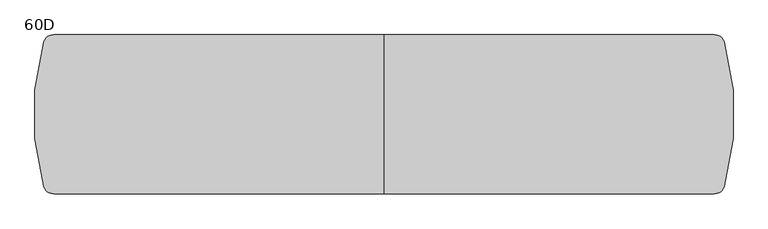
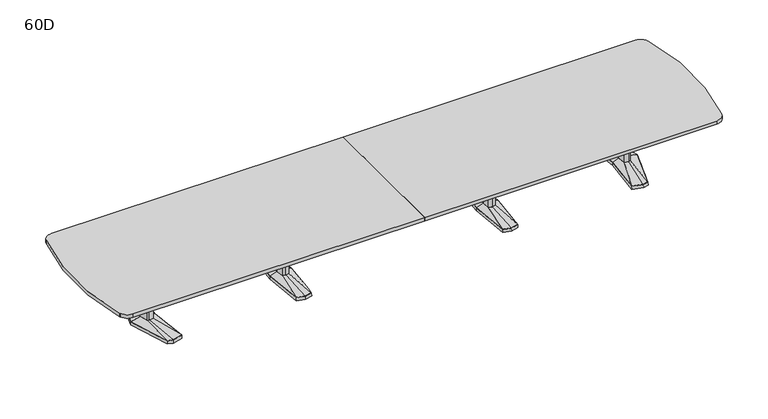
"""IFC4 building model written with IfcOpenShell, lengths in millimetres: furniture geometry, Coalesse_AM_Table_Conference_ETable2_SoftRadiused_22ft_AluminiumBase : 60D."""

from ifc_helpers import new_model, si_unit, point, frame, frame_2d, origin, place, context, project, spatial, polyline, circle_curve, trimmed, segment, composite_curve, outline, extrude, faceted_brep, source, transform, mapped, element, save
from ifc_brep_helpers import plane_surface, spline_surface, advanced_brep


def furniture_60d_d23749e7(model_context):
    return source(origin(), model_context, "Body", "SolidModel", [
        faceted_brep([(1036.3666209, -433.8053819, 38.1), (1117.6, -455.556576, 38.1), (1198.8333791, -433.8053819, 38.1), (1236.6564774, 0.0, 38.1), (1198.8333791, 433.8053819, 38.1), (1117.6, 455.556576, 38.1), (1036.3666209, 433.8053819, 38.1), (998.5435226, 0.0, 38.1), (1034.8817205, -435.0512063, 3.175), (996.95, 0.0, 3.175), (1034.8817205, 435.0512063, 3.175), (1117.6, 457.2, 3.175), (1200.3182795, 435.0512063, 3.175), (1238.25, 0.0, 3.175), (1200.3182795, -435.0512063, 3.175), (1117.6, -457.2, 3.175), (1117.6, 429.2617927, 3.175), (1039.6323194, 408.3850278, 3.175), (1042.8980179, 382.9646737, 3.175), (1117.6, 402.9670094, 3.175), (1192.3019821, 382.9646737, 3.175), (1195.5676806, 408.3850278, 3.175), (1117.6, -429.2617927, 3.175), (1195.5676806, -408.3850278, 3.175), (1192.3019821, -382.9646737, 3.175), (1117.6, -402.9670094, 3.175), (1042.8980179, -382.9646737, 3.175), (1039.6323194, -408.3850278, 3.175), (1045.7425738, 114.6326257, 3.175), (1035.0573924, 0.0, 3.175), (1045.7425738, -114.6326257, 3.175), (1117.6, -133.8761372, 3.175), (1189.4574262, -114.6326257, 3.175), (1200.1426076, 0.0, 3.175), (1189.4574262, 114.6326257, 3.175), (1117.6, 133.8761372, 3.175), (1117.6, 429.2617927, 0.0), (1195.5676806, 408.3850278, 0.0), (1192.3019821, 382.9646737, 0.0), (1117.6, 402.9670094, 0.0), (1042.8980179, 382.9646737, 0.0), (1039.6323194, 408.3850278, 0.0), (1117.6, -429.2617927, 0.0), (1039.6323194, -408.3850278, 0.0), (1042.8980179, -382.9646737, 0.0), (1117.6, -402.9670094, 0.0), (1192.3019821, -382.9646737, 0.0), (1195.5676806, -408.3850278, 0.0), (1045.7425738, 114.6326257, 0.0), (1117.6, 133.8761372, 0.0), (1189.4574262, 114.6326257, 0.0), (1200.1426076, 0.0, 0.0), (1189.4574262, -114.6326257, 0.0), (1117.6, -133.8761372, 0.0), (1045.7425738, -114.6326257, 0.0), (1035.0573924, 0.0, 0.0)], [[[0, 1, 2, 3, 4, 5, 6, 7]], [[8, 9, 10, 11, 12, 13, 14, 15], [16, 17, 18, 19, 20, 21], [22, 23, 24, 25, 26, 27], [28, 29, 30, 31, 32, 33, 34, 35]], [[1, 0, 8, 15]], [[2, 1, 15, 14]], [[3, 2, 14, 13]], [[4, 3, 13, 12]], [[5, 4, 12, 11]], [[6, 5, 11, 10]], [[7, 6, 10, 9]], [[0, 7, 9, 8]], [[36, 37, 38, 39, 40, 41]], [[42, 43, 44, 45, 46, 47]], [[48, 49, 50, 51, 52, 53, 54, 55]], [[36, 41, 17, 16]], [[41, 40, 18, 17]], [[40, 39, 19, 18]], [[39, 38, 20, 19]], [[38, 37, 21, 20]], [[37, 36, 16, 21]], [[42, 47, 23, 22]], [[47, 46, 24, 23]], [[46, 45, 25, 24]], [[45, 44, 26, 25]], [[44, 43, 27, 26]], [[43, 42, 22, 27]], [[48, 55, 29, 28]], [[55, 54, 30, 29]], [[54, 53, 31, 30]], [[53, 52, 32, 31]], [[52, 51, 33, 32]], [[51, 50, 34, 33]], [[50, 49, 35, 34]], [[49, 48, 28, 35]]]),
        faceted_brep([(1081.2167166, 84.6900825, 698.5), (1073.3225513, 0.0, 698.5), (1081.2167166, -84.6900825, 698.5), (1117.6, -94.4335728, 698.5), (1153.9832834, -84.6900825, 698.5), (1161.8774487, 0.0, 698.5), (1153.9832834, 84.6900825, 698.5), (1117.6, 94.4335728, 698.5), (1081.2167166, 84.6900825, 63.5), (1117.6, 94.4335728, 63.5), (1153.9832834, 84.6900825, 63.5), (1161.8774487, 0.0, 63.5), (1153.9832834, -84.6900825, 63.5), (1117.6, -94.4335728, 63.5), (1081.2167166, -84.6900825, 63.5), (1073.3225513, 0.0, 63.5)], [[[0, 1, 2, 3, 4, 5, 6, 7]], [[8, 9, 10, 11, 12, 13, 14, 15]], [[1, 0, 8, 15]], [[2, 1, 15, 14]], [[3, 2, 14, 13]], [[4, 3, 13, 12]], [[5, 4, 12, 11]], [[6, 5, 11, 10]], [[7, 6, 10, 9]], [[0, 7, 9, 8]]]),
        advanced_brep(
        [(1081.2167166, 84.6900825, 63.5), (1073.3225513, 0.0, 63.5), (1081.2167166, -84.6900825, 63.5), (1117.6, -94.4335728, 63.5), (1153.9832834, -84.6900825, 63.5), (1161.8774487, 0.0, 63.5), (1153.9832834, 84.6900825, 63.5), (1117.6, 94.4335728, 63.5), (1036.3666209, 433.8053819, 38.1), (1117.6, 455.556576, 38.1), (1198.8333791, 433.8053819, 38.1), (1236.6564774, 0.0, 38.1), (1198.8333791, -433.8053819, 38.1), (1117.6, -455.556576, 38.1), (1036.3666209, -433.8053819, 38.1), (998.5435226, 0.0, 38.1)],
        [
            (0, 1),
            (1, 2),
            (2, 3),
            (3, 4),
            (4, 5),
            (5, 6),
            (6, 7),
            (7, 0),
            (8, 9),
            (9, 10),
            (10, 11),
            (11, 12),
            (12, 13),
            (13, 14),
            (14, 15),
            (15, 8),
            (15, 1),
            (0, 8),
            (14, 2),
            (13, 3),
            (12, 4),
            (11, 5),
            (10, 6),
            (9, 7),
        ],
        [
            plane_surface(frame((1117.6, 0.0, 63.5), z_axis=(0.0, 0.0, 1.0000000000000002), x_axis=(-0.9659615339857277, -0.25868574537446, 0.0))),
            plane_surface(frame((1117.6, 0.0, 38.1), z_axis=(0.0, 0.0, -1.0000000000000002), x_axis=(-0.9659615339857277, -0.25868574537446, 0.0))),
            spline_surface(1, 1, [[(1036.3666209, 433.8053819, 38.1), (1081.2167166, 84.6900825, 63.5)], [(998.5435226, 0.0, 38.1), (1073.3225513, 0.0, 63.5)]], [2, 2], [2, 2], [0.0, 1.0], [0.0, 1.0]),
            spline_surface(1, 1, [[(998.5435226, 0.0, 38.1), (1073.3225513, 0.0, 63.5)], [(1036.3666209, -433.8053819, 38.1), (1081.2167166, -84.6900825, 63.5)]], [2, 2], [2, 2], [0.0, 1.0], [0.0, 1.0]),
            spline_surface(1, 1, [[(1036.3666209, -433.8053819, 38.1), (1081.2167166, -84.6900825, 63.5)], [(1117.6, -455.556576, 38.1), (1117.6, -94.4335728, 63.5)]], [2, 2], [2, 2], [0.0, 1.0], [0.0, 1.0]),
            spline_surface(1, 1, [[(1117.6, -455.556576, 38.1), (1117.6, -94.4335728, 63.5)], [(1198.8333791, -433.8053819, 38.1), (1153.9832834, -84.6900825, 63.5)]], [2, 2], [2, 2], [0.0, 1.0], [0.0, 1.0]),
            spline_surface(1, 1, [[(1198.8333791, -433.8053819, 38.1), (1153.9832834, -84.6900825, 63.5)], [(1236.6564774, 0.0, 38.1), (1161.8774487, 0.0, 63.5)]], [2, 2], [2, 2], [0.0, 1.0], [0.0, 1.0]),
            spline_surface(1, 1, [[(1236.6564774, 0.0, 38.1), (1161.8774487, 0.0, 63.5)], [(1198.8333791, 433.8053819, 38.1), (1153.9832834, 84.6900825, 63.5)]], [2, 2], [2, 2], [0.0, 1.0], [0.0, 1.0]),
            spline_surface(1, 1, [[(1198.8333791, 433.8053819, 38.1), (1153.9832834, 84.6900825, 63.5)], [(1117.6, 455.556576, 38.1), (1117.6, 94.4335728, 63.5)]], [2, 2], [2, 2], [0.0, 1.0], [0.0, 1.0]),
            spline_surface(1, 1, [[(1117.6, 455.556576, 38.1), (1117.6, 94.4335728, 63.5)], [(1036.3666209, 433.8053819, 38.1), (1081.2167166, 84.6900825, 63.5)]], [2, 2], [2, 2], [0.0, 1.0], [0.0, 1.0]),
        ],
        [
            (0, [[1, 2, 3, 4, 5, 6, 7, 8]]),
            (1, [[9, 10, 11, 12, 13, 14, 15, 16]]),
            (2, [[-16, 17, -1, 18]]),
            (3, [[-15, 19, -2, -17]]),
            (4, [[-14, 20, -3, -19]]),
            (5, [[-13, 21, -4, -20]]),
            (6, [[-12, 22, -5, -21]]),
            (7, [[-11, 23, -6, -22]]),
            (8, [[-10, 24, -7, -23]]),
            (9, [[-9, -18, -8, -24]]),
        ],
    ),
        faceted_brep([(-1198.8333791, -433.8053819, 38.1), (-1117.6, -455.556576, 38.1), (-1036.3666209, -433.8053819, 38.1), (-998.5435226, 0.0, 38.1), (-1036.3666209, 433.8053819, 38.1), (-1117.6, 455.556576, 38.1), (-1198.8333791, 433.8053819, 38.1), (-1236.6564774, 0.0, 38.1), (-1200.3182795, -435.0512063, 3.175), (-1238.25, 0.0, 3.175), (-1200.3182795, 435.0512063, 3.175), (-1117.6, 457.2, 3.175), (-1034.8817205, 435.0512063, 3.175), (-996.95, 0.0, 3.175), (-1034.8817205, -435.0512063, 3.175), (-1117.6, -457.2, 3.175), (-1117.6, 429.2617927, 3.175), (-1195.5676806, 408.3850278, 3.175), (-1192.3019821, 382.9646737, 3.175), (-1117.6, 402.9670094, 3.175), (-1042.8980179, 382.9646737, 3.175), (-1039.6323194, 408.3850278, 3.175), (-1117.6, -429.2617927, 3.175), (-1039.6323194, -408.3850278, 3.175), (-1042.8980179, -382.9646737, 3.175), (-1117.6, -402.9670094, 3.175), (-1192.3019821, -382.9646737, 3.175), (-1195.5676806, -408.3850278, 3.175), (-1189.4574262, 114.6326257, 3.175), (-1200.1426076, 0.0, 3.175), (-1189.4574262, -114.6326257, 3.175), (-1117.6, -133.8761372, 3.175), (-1045.7425738, -114.6326257, 3.175), (-1035.0573924, 0.0, 3.175), (-1045.7425738, 114.6326257, 3.175), (-1117.6, 133.8761372, 3.175), (-1117.6, 429.2617927, 0.0), (-1039.6323194, 408.3850278, 0.0), (-1042.8980179, 382.9646737, 0.0), (-1117.6, 402.9670094, 0.0), (-1192.3019821, 382.9646737, 0.0), (-1195.5676806, 408.3850278, 0.0), (-1117.6, -429.2617927, 0.0), (-1195.5676806, -408.3850278, 0.0), (-1192.3019821, -382.9646737, 0.0), (-1117.6, -402.9670094, 0.0), (-1042.8980179, -382.9646737, 0.0), (-1039.6323194, -408.3850278, 0.0), (-1189.4574262, 114.6326257, 0.0), (-1117.6, 133.8761372, 0.0), (-1045.7425738, 114.6326257, 0.0), (-1035.0573924, 0.0, 0.0), (-1045.7425738, -114.6326257, 0.0), (-1117.6, -133.8761372, 0.0), (-1189.4574262, -114.6326257, 0.0), (-1200.1426076, 0.0, 0.0)], [[[0, 1, 2, 3, 4, 5, 6, 7]], [[8, 9, 10, 11, 12, 13, 14, 15], [16, 17, 18, 19, 20, 21], [22, 23, 24, 25, 26, 27], [28, 29, 30, 31, 32, 33, 34, 35]], [[1, 0, 8, 15]], [[2, 1, 15, 14]], [[3, 2, 14, 13]], [[4, 3, 13, 12]], [[5, 4, 12, 11]], [[6, 5, 11, 10]], [[7, 6, 10, 9]], [[0, 7, 9, 8]], [[36, 37, 38, 39, 40, 41]], [[42, 43, 44, 45, 46, 47]], [[48, 49, 50, 51, 52, 53, 54, 55]], [[36, 41, 17, 16]], [[41, 40, 18, 17]], [[40, 39, 19, 18]], [[39, 38, 20, 19]], [[38, 37, 21, 20]], [[37, 36, 16, 21]], [[42, 47, 23, 22]], [[47, 46, 24, 23]], [[46, 45, 25, 24]], [[45, 44, 26, 25]], [[44, 43, 27, 26]], [[43, 42, 22, 27]], [[48, 55, 29, 28]], [[55, 54, 30, 29]], [[54, 53, 31, 30]], [[53, 52, 32, 31]], [[52, 51, 33, 32]], [[51, 50, 34, 33]], [[50, 49, 35, 34]], [[49, 48, 28, 35]]]),
        faceted_brep([(-1153.9832834, 84.6900825, 698.5), (-1161.8774487, 0.0, 698.5), (-1153.9832834, -84.6900825, 698.5), (-1117.6, -94.4335728, 698.5), (-1081.2167166, -84.6900825, 698.5), (-1073.3225513, 0.0, 698.5), (-1081.2167166, 84.6900825, 698.5), (-1117.6, 94.4335728, 698.5), (-1153.9832834, 84.6900825, 63.5), (-1117.6, 94.4335728, 63.5), (-1081.2167166, 84.6900825, 63.5), (-1073.3225513, 0.0, 63.5), (-1081.2167166, -84.6900825, 63.5), (-1117.6, -94.4335728, 63.5), (-1153.9832834, -84.6900825, 63.5), (-1161.8774487, 0.0, 63.5)], [[[0, 1, 2, 3, 4, 5, 6, 7]], [[8, 9, 10, 11, 12, 13, 14, 15]], [[1, 0, 8, 15]], [[2, 1, 15, 14]], [[3, 2, 14, 13]], [[4, 3, 13, 12]], [[5, 4, 12, 11]], [[6, 5, 11, 10]], [[7, 6, 10, 9]], [[0, 7, 9, 8]]]),
        advanced_brep(
        [(-1153.9832834, 84.6900825, 63.5), (-1161.8774487, 0.0, 63.5), (-1153.9832834, -84.6900825, 63.5), (-1117.6, -94.4335728, 63.5), (-1081.2167166, -84.6900825, 63.5), (-1073.3225513, 0.0, 63.5), (-1081.2167166, 84.6900825, 63.5), (-1117.6, 94.4335728, 63.5), (-1198.8333791, 433.8053819, 38.1), (-1117.6, 455.556576, 38.1), (-1036.3666209, 433.8053819, 38.1), (-998.5435226, 0.0, 38.1), (-1036.3666209, -433.8053819, 38.1), (-1117.6, -455.556576, 38.1), (-1198.8333791, -433.8053819, 38.1), (-1236.6564774, 0.0, 38.1)],
        [
            (0, 1),
            (1, 2),
            (2, 3),
            (3, 4),
            (4, 5),
            (5, 6),
            (6, 7),
            (7, 0),
            (8, 9),
            (9, 10),
            (10, 11),
            (11, 12),
            (12, 13),
            (13, 14),
            (14, 15),
            (15, 8),
            (15, 1),
            (0, 8),
            (14, 2),
            (13, 3),
            (12, 4),
            (11, 5),
            (10, 6),
            (9, 7),
        ],
        [
            plane_surface(frame((-1117.6, 0.0, 63.5), z_axis=(0.0, 0.0, 1.0000000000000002), x_axis=(-0.9659615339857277, -0.25868574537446, 0.0))),
            plane_surface(frame((-1117.6, 0.0, 38.1), z_axis=(0.0, 0.0, -1.0000000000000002), x_axis=(-0.9659615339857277, -0.25868574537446, 0.0))),
            spline_surface(1, 1, [[(-1198.8333791, 433.8053819, 38.1), (-1153.9832834, 84.6900825, 63.5)], [(-1236.6564774, 0.0, 38.1), (-1161.8774487, 0.0, 63.5)]], [2, 2], [2, 2], [0.0, 1.0], [0.0, 1.0]),
            spline_surface(1, 1, [[(-1236.6564774, 0.0, 38.1), (-1161.8774487, 0.0, 63.5)], [(-1198.8333791, -433.8053819, 38.1), (-1153.9832834, -84.6900825, 63.5)]], [2, 2], [2, 2], [0.0, 1.0], [0.0, 1.0]),
            spline_surface(1, 1, [[(-1198.8333791, -433.8053819, 38.1), (-1153.9832834, -84.6900825, 63.5)], [(-1117.6, -455.556576, 38.1), (-1117.6, -94.4335728, 63.5)]], [2, 2], [2, 2], [0.0, 1.0], [0.0, 1.0]),
            spline_surface(1, 1, [[(-1117.6, -455.556576, 38.1), (-1117.6, -94.4335728, 63.5)], [(-1036.3666209, -433.8053819, 38.1), (-1081.2167166, -84.6900825, 63.5)]], [2, 2], [2, 2], [0.0, 1.0], [0.0, 1.0]),
            spline_surface(1, 1, [[(-1036.3666209, -433.8053819, 38.1), (-1081.2167166, -84.6900825, 63.5)], [(-998.5435226, 0.0, 38.1), (-1073.3225513, 0.0, 63.5)]], [2, 2], [2, 2], [0.0, 1.0], [0.0, 1.0]),
            spline_surface(1, 1, [[(-998.5435226, 0.0, 38.1), (-1073.3225513, 0.0, 63.5)], [(-1036.3666209, 433.8053819, 38.1), (-1081.2167166, 84.6900825, 63.5)]], [2, 2], [2, 2], [0.0, 1.0], [0.0, 1.0]),
            spline_surface(1, 1, [[(-1036.3666209, 433.8053819, 38.1), (-1081.2167166, 84.6900825, 63.5)], [(-1117.6, 455.556576, 38.1), (-1117.6, 94.4335728, 63.5)]], [2, 2], [2, 2], [0.0, 1.0], [0.0, 1.0]),
            spline_surface(1, 1, [[(-1117.6, 455.556576, 38.1), (-1117.6, 94.4335728, 63.5)], [(-1198.8333791, 433.8053819, 38.1), (-1153.9832834, 84.6900825, 63.5)]], [2, 2], [2, 2], [0.0, 1.0], [0.0, 1.0]),
        ],
        [
            (0, [[1, 2, 3, 4, 5, 6, 7, 8]]),
            (1, [[9, 10, 11, 12, 13, 14, 15, 16]]),
            (2, [[-16, 17, -1, 18]]),
            (3, [[-15, 19, -2, -17]]),
            (4, [[-14, 20, -3, -19]]),
            (5, [[-13, 21, -4, -20]]),
            (6, [[-12, 22, -5, -21]]),
            (7, [[-11, 23, -6, -22]]),
            (8, [[-10, 24, -7, -23]]),
            (9, [[-9, -18, -8, -24]]),
        ],
    ),
        faceted_brep([(2548.0994335, 455.5848221, 38.1), (2438.5218777, 426.2263816, 38.1), (2479.6851217, 0.0, 38.1), (2438.5218777, -426.2263816, 38.1), (2548.0994335, -455.5848221, 38.1), (2604.2257896, -440.5478297, 38.1), (2741.5371769, 0.0, 38.1), (2604.2257896, 440.5478297, 38.1), (2548.0994254, 457.2283104, 3.175), (2605.4811972, 441.8549756, 3.175), (2743.2, 0.0, 3.175), (2605.4811972, -441.8549756, 3.175), (2548.0994254, -457.2283104, 3.175), (2436.8125, -427.4118891, 3.175), (2478.0902356, 0.0, 3.175), (2436.8125, 427.4118891, 3.175), (2551.688865, 428.3273875, 3.175), (2446.6405728, 402.1057253, 3.175), (2454.759268, 377.985069, 3.175), (2555.2782966, 401.0699529, 3.175), (2605.8379225, 387.524361, 3.175), (2605.0318561, 414.0360954, 3.175), (2551.688865, -428.3273875, 3.175), (2605.0318561, -414.0360954, 3.175), (2605.8379225, -387.524361, 3.175), (2555.2782966, -401.0699529, 3.175), (2454.759268, -377.985069, 3.175), (2446.6405728, -402.1057253, 3.175), (2678.2841121, 0.0, 3.175), (2646.0147111, 120.4193755, 3.175), (2597.3674722, 133.471665, 3.175), (2517.4868026, 119.4176561, 3.175), (2506.3555966, 0.0, 3.175), (2517.4868026, -119.4176561, 3.175), (2597.3674722, -133.471665, 3.175), (2646.0147111, -120.4193755, 3.175), (2551.688865, 428.3273875, 0.0), (2605.0318561, 414.0360954, 0.0), (2605.8379225, 387.524361, 0.0), (2555.2782966, 401.0699529, 0.0), (2454.759268, 377.985069, 0.0), (2446.6405728, 402.1057253, 0.0), (2551.688865, -428.3273875, 0.0), (2446.6405728, -402.1057253, 0.0), (2454.759268, -377.985069, 0.0), (2555.2782966, -401.0699529, 0.0), (2605.8379225, -387.524361, 0.0), (2605.0318561, -414.0360954, 0.0), (2678.2841121, 0.0, 0.0), (2646.0147111, -120.4193755, 0.0), (2597.3674722, -133.471665, 0.0), (2517.4868026, -119.4176561, 0.0), (2506.3555966, 0.0, 0.0), (2517.4868026, 119.4176561, 0.0), (2597.3674722, 133.471665, 0.0), (2646.0147111, 120.4193755, 0.0)], [[[0, 1, 2, 3, 4, 5, 6, 7]], [[8, 9, 10, 11, 12, 13, 14, 15], [16, 17, 18, 19, 20, 21], [22, 23, 24, 25, 26, 27], [28, 29, 30, 31, 32, 33, 34, 35]], [[7, 9, 8, 0]], [[6, 10, 9, 7]], [[5, 11, 10, 6]], [[4, 12, 11, 5]], [[3, 13, 12, 4]], [[2, 14, 13, 3]], [[1, 15, 14, 2]], [[0, 8, 15, 1]], [[36, 37, 38, 39, 40, 41]], [[42, 43, 44, 45, 46, 47]], [[48, 49, 50, 51, 52, 53, 54, 55]], [[36, 16, 21, 37]], [[37, 21, 20, 38]], [[38, 20, 19, 39]], [[39, 19, 18, 40]], [[40, 18, 17, 41]], [[41, 17, 16, 36]], [[42, 22, 27, 43]], [[43, 27, 26, 44]], [[44, 26, 25, 45]], [[45, 25, 24, 46]], [[46, 24, 23, 47]], [[47, 23, 22, 42]], [[48, 28, 35, 49]], [[49, 35, 34, 50]], [[50, 34, 33, 51]], [[51, 33, 32, 52]], [[52, 32, 31, 53]], [[53, 31, 30, 54]], [[54, 30, 29, 55]], [[55, 29, 28, 48]]]),
        faceted_brep([(2638.8398336, 0.0, 698.5), (2614.9046046, 89.3188359, 698.5), (2598.0512484, 93.8406728, 698.5), (2595.6514011, 94.4845635, 698.5), (2552.723896, 86.9320037, 698.5), (2544.6207556, 0.0, 698.5), (2552.723896, -86.9320037, 698.5), (2595.6514011, -94.4845635, 698.5), (2598.0512484, -93.8406728, 698.5), (2614.9046046, -89.3188359, 698.5), (2638.8398336, 0.0, 63.5), (2614.9046046, -89.3188359, 63.5), (2598.0512484, -93.8406728, 63.5), (2595.6514011, -94.4845635, 63.5), (2552.723896, -86.9320037, 63.5), (2544.6207556, 0.0, 63.5), (2552.723896, 86.9320037, 63.5), (2595.6514011, 94.4845635, 63.5), (2598.0512484, 93.8406728, 63.5), (2614.9046046, 89.3188359, 63.5)], [[[0, 1, 2, 3, 4, 5, 6, 7, 8, 9]], [[10, 11, 12, 13, 14, 15, 16, 17, 18, 19]], [[9, 11, 10, 0]], [[8, 12, 11, 9]], [[7, 13, 12, 8]], [[6, 14, 13, 7]], [[5, 15, 14, 6]], [[4, 16, 15, 5]], [[3, 17, 16, 4]], [[2, 18, 17, 3]], [[1, 19, 18, 2]], [[0, 10, 19, 1]]]),
        advanced_brep(
        [(2595.6514011, 94.4845635, 63.5), (2552.723896, 86.9320037, 63.5), (2544.6207556, 0.0, 63.5), (2552.723896, -86.9320037, 63.5), (2595.6514011, -94.4845635, 63.5), (2614.9046046, -89.3188359, 63.5), (2638.8398336, 0.0, 63.5), (2614.9046046, 89.3188359, 63.5), (2548.0994335, 455.5848221, 38.1), (2604.2257896, 440.5478297, 38.1), (2741.5371769, 0.0, 38.1), (2604.2257896, -440.5478297, 38.1), (2548.0994335, -455.5848221, 38.1), (2438.5218777, -426.2263816, 38.1), (2479.6851217, 0.0, 38.1), (2438.5218777, 426.2263816, 38.1)],
        [
            (0, 1),
            (1, 2),
            (2, 3),
            (3, 4),
            (4, 5),
            (5, 6),
            (6, 7),
            (7, 0),
            (8, 9),
            (9, 10),
            (10, 11),
            (11, 12),
            (12, 13),
            (13, 14),
            (14, 15),
            (15, 8),
            (8, 0),
            (7, 9),
            (6, 10),
            (5, 11),
            (4, 12),
            (3, 13),
            (2, 14),
            (1, 15),
        ],
        [
            plane_surface(frame((2588.7525491, 0.0, 63.5), z_axis=(0.0, 0.0, 1.0), x_axis=(-0.25884244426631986, -0.9659195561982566, 0.0))),
            plane_surface(frame((2550.3645625, 0.0, 38.1), z_axis=(0.0, 0.0, -1.0), x_axis=(-0.25884244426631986, -0.9659195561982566, 0.0))),
            spline_surface(1, 1, [[(2548.0994335, 455.5848221, 38.1), (2604.2257896, 440.5478297, 38.1)], [(2595.6514011, 94.4845635, 63.5), (2614.9046046, 89.3188359, 63.5)]], [2, 2], [2, 2], [0.0, 1.0], [0.0, 1.0]),
            spline_surface(1, 1, [[(2604.2257896, 440.5478297, 38.1), (2741.5371769, 0.0, 38.1)], [(2614.9046046, 89.3188359, 63.5), (2638.8398336, 0.0, 63.5)]], [2, 2], [2, 2], [0.0, 1.0], [0.0, 1.0]),
            spline_surface(1, 1, [[(2741.5371769, 0.0, 38.1), (2604.2257896, -440.5478297, 38.1)], [(2638.8398336, 0.0, 63.5), (2614.9046046, -89.3188359, 63.5)]], [2, 2], [2, 2], [0.0, 1.0], [0.0, 1.0]),
            spline_surface(1, 1, [[(2604.2257896, -440.5478297, 38.1), (2548.0994335, -455.5848221, 38.1)], [(2614.9046046, -89.3188359, 63.5), (2595.6514011, -94.4845635, 63.5)]], [2, 2], [2, 2], [0.0, 1.0], [0.0, 1.0]),
            spline_surface(1, 1, [[(2548.0994335, -455.5848221, 38.1), (2438.5218777, -426.2263816, 38.1)], [(2595.6514011, -94.4845635, 63.5), (2552.723896, -86.9320037, 63.5)]], [2, 2], [2, 2], [0.0, 1.0], [0.0, 1.0]),
            spline_surface(1, 1, [[(2438.5218777, -426.2263816, 38.1), (2479.6851217, 0.0, 38.1)], [(2552.723896, -86.9320037, 63.5), (2544.6207556, 0.0, 63.5)]], [2, 2], [2, 2], [0.0, 1.0], [0.0, 1.0]),
            spline_surface(1, 1, [[(2479.6851217, 0.0, 38.1), (2438.5218777, 426.2263816, 38.1)], [(2544.6207556, 0.0, 63.5), (2552.723896, 86.9320037, 63.5)]], [2, 2], [2, 2], [0.0, 1.0], [0.0, 1.0]),
            spline_surface(1, 1, [[(2438.5218777, 426.2263816, 38.1), (2548.0994335, 455.5848221, 38.1)], [(2552.723896, 86.9320037, 63.5), (2595.6514011, 94.4845635, 63.5)]], [2, 2], [2, 2], [0.0, 1.0], [0.0, 1.0]),
        ],
        [
            (0, [[1, 2, 3, 4, 5, 6, 7, 8]]),
            (1, [[9, 10, 11, 12, 13, 14, 15, 16]]),
            (2, [[17, -8, 18, -9]]),
            (3, [[-18, -7, 19, -10]]),
            (4, [[-19, -6, 20, -11]]),
            (5, [[-20, -5, 21, -12]]),
            (6, [[-21, -4, 22, -13]]),
            (7, [[-22, -3, 23, -14]]),
            (8, [[-23, -2, 24, -15]]),
            (9, [[-24, -1, -17, -16]]),
        ],
    ),
        faceted_brep([(-2548.0994335, 455.5848221, 38.1), (-2604.2257896, 440.5478297, 38.1), (-2741.5371769, 0.0, 38.1), (-2604.2257896, -440.5478297, 38.1), (-2548.0994335, -455.5848221, 38.1), (-2438.5218777, -426.2263816, 38.1), (-2479.6851217, 0.0, 38.1), (-2438.5218777, 426.2263816, 38.1), (-2548.0994254, 457.2283104, 3.175), (-2436.8125, 427.4118891, 3.175), (-2478.0902356, 0.0, 3.175), (-2436.8125, -427.4118891, 3.175), (-2548.0994254, -457.2283104, 3.175), (-2605.4811972, -441.8549756, 3.175), (-2743.2, 0.0, 3.175), (-2605.4811972, 441.8549756, 3.175), (-2551.688865, 428.3273875, 3.175), (-2605.0318561, 414.0360954, 3.175), (-2605.8379225, 387.524361, 3.175), (-2555.2782966, 401.0699529, 3.175), (-2454.759268, 377.985069, 3.175), (-2446.6405728, 402.1057253, 3.175), (-2551.688865, -428.3273875, 3.175), (-2446.6405728, -402.1057253, 3.175), (-2454.759268, -377.985069, 3.175), (-2555.2782966, -401.0699529, 3.175), (-2605.8379225, -387.524361, 3.175), (-2605.0318561, -414.0360954, 3.175), (-2678.2841121, 0.0, 3.175), (-2646.0147111, -120.4193755, 3.175), (-2597.3674722, -133.471665, 3.175), (-2517.4868026, -119.4176561, 3.175), (-2506.3555966, 0.0, 3.175), (-2517.4868026, 119.4176561, 3.175), (-2597.3674722, 133.471665, 3.175), (-2646.0147111, 120.4193755, 3.175), (-2551.688865, 428.3273875, 0.0), (-2446.6405728, 402.1057253, 0.0), (-2454.759268, 377.985069, 0.0), (-2555.2782966, 401.0699529, 0.0), (-2605.8379225, 387.524361, 0.0), (-2605.0318561, 414.0360954, 0.0), (-2551.688865, -428.3273875, 0.0), (-2605.0318561, -414.0360954, 0.0), (-2605.8379225, -387.524361, 0.0), (-2555.2782966, -401.0699529, 0.0), (-2454.759268, -377.985069, 0.0), (-2446.6405728, -402.1057253, 0.0), (-2678.2841121, 0.0, 0.0), (-2646.0147111, 120.4193755, 0.0), (-2597.3674722, 133.471665, 0.0), (-2517.4868026, 119.4176561, 0.0), (-2506.3555966, 0.0, 0.0), (-2517.4868026, -119.4176561, 0.0), (-2597.3674722, -133.471665, 0.0), (-2646.0147111, -120.4193755, 0.0)], [[[0, 1, 2, 3, 4, 5, 6, 7]], [[8, 9, 10, 11, 12, 13, 14, 15], [16, 17, 18, 19, 20, 21], [22, 23, 24, 25, 26, 27], [28, 29, 30, 31, 32, 33, 34, 35]], [[1, 0, 8, 15]], [[2, 1, 15, 14]], [[3, 2, 14, 13]], [[4, 3, 13, 12]], [[5, 4, 12, 11]], [[6, 5, 11, 10]], [[7, 6, 10, 9]], [[0, 7, 9, 8]], [[36, 37, 38, 39, 40, 41]], [[42, 43, 44, 45, 46, 47]], [[48, 49, 50, 51, 52, 53, 54, 55]], [[36, 41, 17, 16]], [[41, 40, 18, 17]], [[40, 39, 19, 18]], [[39, 38, 20, 19]], [[38, 37, 21, 20]], [[37, 36, 16, 21]], [[42, 47, 23, 22]], [[47, 46, 24, 23]], [[46, 45, 25, 24]], [[45, 44, 26, 25]], [[44, 43, 27, 26]], [[43, 42, 22, 27]], [[48, 55, 29, 28]], [[55, 54, 30, 29]], [[54, 53, 31, 30]], [[53, 52, 32, 31]], [[52, 51, 33, 32]], [[51, 50, 34, 33]], [[50, 49, 35, 34]], [[49, 48, 28, 35]]]),
        faceted_brep([(-2638.8398336, 0.0, 698.5), (-2614.9046046, -89.3188359, 698.5), (-2598.0512484, -93.8406728, 698.5), (-2595.6514011, -94.4845635, 698.5), (-2552.723896, -86.9320037, 698.5), (-2544.6207556, 0.0, 698.5), (-2552.723896, 86.9320037, 698.5), (-2595.6514011, 94.4845635, 698.5), (-2598.0512484, 93.8406728, 698.5), (-2614.9046046, 89.3188359, 698.5), (-2638.8398336, 0.0, 63.5), (-2614.9046046, 89.3188359, 63.5), (-2598.0512484, 93.8406728, 63.5), (-2595.6514011, 94.4845635, 63.5), (-2552.723896, 86.9320037, 63.5), (-2544.6207556, 0.0, 63.5), (-2552.723896, -86.9320037, 63.5), (-2595.6514011, -94.4845635, 63.5), (-2598.0512484, -93.8406728, 63.5), (-2614.9046046, -89.3188359, 63.5)], [[[0, 1, 2, 3, 4, 5, 6, 7, 8, 9]], [[10, 11, 12, 13, 14, 15, 16, 17, 18, 19]], [[1, 0, 10, 19]], [[2, 1, 19, 18]], [[3, 2, 18, 17]], [[4, 3, 17, 16]], [[5, 4, 16, 15]], [[6, 5, 15, 14]], [[7, 6, 14, 13]], [[8, 7, 13, 12]], [[9, 8, 12, 11]], [[0, 9, 11, 10]]]),
        advanced_brep(
        [(-2595.6514011, 94.4845635, 63.5), (-2614.9046046, 89.3188359, 63.5), (-2638.8398336, 0.0, 63.5), (-2614.9046046, -89.3188359, 63.5), (-2595.6514011, -94.4845635, 63.5), (-2552.723896, -86.9320037, 63.5), (-2544.6207556, 0.0, 63.5), (-2552.723896, 86.9320037, 63.5), (-2548.0994335, 455.5848221, 38.1), (-2438.5218777, 426.2263816, 38.1), (-2479.6851217, 0.0, 38.1), (-2438.5218777, -426.2263816, 38.1), (-2548.0994335, -455.5848221, 38.1), (-2604.2257896, -440.5478297, 38.1), (-2741.5371769, 0.0, 38.1), (-2604.2257896, 440.5478297, 38.1)],
        [
            (0, 1),
            (1, 2),
            (2, 3),
            (3, 4),
            (4, 5),
            (5, 6),
            (6, 7),
            (7, 0),
            (8, 9),
            (9, 10),
            (10, 11),
            (11, 12),
            (12, 13),
            (13, 14),
            (14, 15),
            (15, 8),
            (15, 1),
            (0, 8),
            (14, 2),
            (13, 3),
            (12, 4),
            (11, 5),
            (10, 6),
            (9, 7),
        ],
        [
            plane_surface(frame((-2588.7525491, 0.0, 63.5), z_axis=(0.0, 0.0, 1.0), x_axis=(0.25884244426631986, -0.9659195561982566, 0.0))),
            plane_surface(frame((-2550.3645625, 0.0, 38.1), z_axis=(0.0, 0.0, -1.0), x_axis=(0.25884244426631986, -0.9659195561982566, 0.0))),
            spline_surface(1, 1, [[(-2548.0994335, 455.5848221, 38.1), (-2595.6514011, 94.4845635, 63.5)], [(-2604.2257896, 440.5478297, 38.1), (-2614.9046046, 89.3188359, 63.5)]], [2, 2], [2, 2], [0.0, 1.0], [0.0, 1.0]),
            spline_surface(1, 1, [[(-2604.2257896, 440.5478297, 38.1), (-2614.9046046, 89.3188359, 63.5)], [(-2741.5371769, 0.0, 38.1), (-2638.8398336, 0.0, 63.5)]], [2, 2], [2, 2], [0.0, 1.0], [0.0, 1.0]),
            spline_surface(1, 1, [[(-2741.5371769, 0.0, 38.1), (-2638.8398336, 0.0, 63.5)], [(-2604.2257896, -440.5478297, 38.1), (-2614.9046046, -89.3188359, 63.5)]], [2, 2], [2, 2], [0.0, 1.0], [0.0, 1.0]),
            spline_surface(1, 1, [[(-2604.2257896, -440.5478297, 38.1), (-2614.9046046, -89.3188359, 63.5)], [(-2548.0994335, -455.5848221, 38.1), (-2595.6514011, -94.4845635, 63.5)]], [2, 2], [2, 2], [0.0, 1.0], [0.0, 1.0]),
            spline_surface(1, 1, [[(-2548.0994335, -455.5848221, 38.1), (-2595.6514011, -94.4845635, 63.5)], [(-2438.5218777, -426.2263816, 38.1), (-2552.723896, -86.9320037, 63.5)]], [2, 2], [2, 2], [0.0, 1.0], [0.0, 1.0]),
            spline_surface(1, 1, [[(-2438.5218777, -426.2263816, 38.1), (-2552.723896, -86.9320037, 63.5)], [(-2479.6851217, 0.0, 38.1), (-2544.6207556, 0.0, 63.5)]], [2, 2], [2, 2], [0.0, 1.0], [0.0, 1.0]),
            spline_surface(1, 1, [[(-2479.6851217, 0.0, 38.1), (-2544.6207556, 0.0, 63.5)], [(-2438.5218777, 426.2263816, 38.1), (-2552.723896, 86.9320037, 63.5)]], [2, 2], [2, 2], [0.0, 1.0], [0.0, 1.0]),
            spline_surface(1, 1, [[(-2438.5218777, 426.2263816, 38.1), (-2552.723896, 86.9320037, 63.5)], [(-2548.0994335, 455.5848221, 38.1), (-2595.6514011, 94.4845635, 63.5)]], [2, 2], [2, 2], [0.0, 1.0], [0.0, 1.0]),
        ],
        [
            (0, [[1, 2, 3, 4, 5, 6, 7, 8]]),
            (1, [[9, 10, 11, 12, 13, 14, 15, 16]]),
            (2, [[-16, 17, -1, 18]]),
            (3, [[-15, 19, -2, -17]]),
            (4, [[-14, 20, -3, -19]]),
            (5, [[-13, 21, -4, -20]]),
            (6, [[-12, 22, -5, -21]]),
            (7, [[-11, 23, -6, -22]]),
            (8, [[-10, 24, -7, -23]]),
            (9, [[-9, -18, -8, -24]]),
        ],
    ),
        extrude(outline(polyline([(96.8375, 698.5), (103.1875, 698.5), (103.1875, 476.25), (-103.1875, 476.25), (-103.1875, 698.5), (-96.8375, 698.5), (-96.8375, 482.6), (96.8375, 482.6), (96.8375, 698.5)])), frame((-2544.7625, 0.0, 0.0), z_axis=(1.0, 0.0, 0.0), x_axis=(0.0, 1.0, 0.0)), (0.0, 0.0, 1.0), 1382.8850513),
        extrude(outline(polyline([(96.8375, 698.5), (103.1875, 698.5), (103.1875, 476.25), (-103.1875, 476.25), (-103.1875, 698.5), (-96.8375, 698.5), (-96.8375, 482.6), (96.8375, 482.6), (96.8375, 698.5)])), frame((-1073.3225513, 0.0, 0.0), z_axis=(1.0, 0.0, 0.0), x_axis=(0.0, 1.0, 0.0)), (0.0, 0.0, 1.0), 2146.6451026),
        extrude(outline(composite_curve([segment(polyline([(0.0, 33.8098423), (0.0, 762.0), (3163.6557965, 762.0)]), True, "CONTINUOUS"), segment(trimmed(circle_curve(frame_2d((3163.6557965, 660.4)), 101.6), [point((3163.6557965, 762.0))], [point((3259.4453259, 694.2662966))], False, "CARTESIAN"), True, "CONTINUOUS"), segment(polyline([(3259.4453259, 694.2662966), (3260.1956256, 692.1441026)]), True, "CONTINUOUS"), segment(trimmed(circle_curve(frame_2d((719.8842649, 0.0)), 2632.9157351), [point((3260.1956256, 692.1441026))], [point((3260.1956256, -692.1441026))], False, "CARTESIAN"), True, "CONTINUOUS"), segment(polyline([(3260.1956256, -692.1441026), (3259.4453259, -694.2662966)]), True, "CONTINUOUS"), segment(trimmed(circle_curve(frame_2d((3163.6557965, -660.4)), 101.6), [point((3259.4453259, -694.2662966))], [point((3163.6557965, -762.0))], False, "CARTESIAN"), True, "CONTINUOUS"), segment(polyline([(3163.6557965, -762.0), (0.0, -762.0), (0.0, 33.8098423)]), True, "CONTINUOUS")], self_intersect=False)), frame((0.0, 0.0, 698.5), z_axis=(0.0, 0.0, 1.0), x_axis=(1.0, 0.0, 0.0)), (0.0, 0.0, 1.0), 38.1),
        extrude(outline(composite_curve([segment(polyline([(0.0, 116.8151966), (0.0, -762.0), (-3163.6557965, -762.0)]), True, "CONTINUOUS"), segment(trimmed(circle_curve(frame_2d((-3163.6557965, -660.4)), 101.6), [point((-3163.6557965, -762.0))], [point((-3259.4453259, -694.2662966))], False, "CARTESIAN"), True, "CONTINUOUS"), segment(polyline([(-3259.4453259, -694.2662966), (-3260.1956256, -692.1441026)]), True, "CONTINUOUS"), segment(trimmed(circle_curve(frame_2d((-719.8842649, 0.0)), 2632.9157351), [point((-3260.1956256, -692.1441026))], [point((-3260.1956256, 692.1441026))], False, "CARTESIAN"), True, "CONTINUOUS"), segment(polyline([(-3260.1956256, 692.1441026), (-3259.4453259, 694.2662966)]), True, "CONTINUOUS"), segment(trimmed(circle_curve(frame_2d((-3163.6557965, 660.4)), 101.6), [point((-3259.4453259, 694.2662966))], [point((-3163.6557965, 762.0))], False, "CARTESIAN"), True, "CONTINUOUS"), segment(polyline([(-3163.6557965, 762.0), (0.0, 762.0), (0.0, 116.8151966)]), True, "CONTINUOUS")], self_intersect=False)), frame((0.0, 0.0, 698.5), z_axis=(0.0, 0.0, 1.0), x_axis=(1.0, 0.0, 0.0)), (0.0, 0.0, 1.0), 38.1),
        extrude(outline(polyline([(96.8375, 698.5), (103.1875, 698.5), (103.1875, 476.25), (-103.1875, 476.25), (-103.1875, 698.5), (-96.8375, 698.5), (-96.8375, 482.6), (96.8375, 482.6), (96.8375, 698.5)])), frame((1161.8774487, 0.0, 0.0), z_axis=(1.0, 0.0, 0.0), x_axis=(0.0, 1.0, 0.0)), (0.0, 0.0, 1.0), 1382.8850513),
    ])


if __name__ == "__main__":
    model = new_model("IFC4")
    model_context = context("Model", 3, world=origin())
    ifc_project = project(units=[si_unit("LENGTHUNIT", "METRE", prefix="MILLI")], contexts=[model_context])
    site = spatial("IfcSite", under=ifc_project)
    building = spatial("IfcBuilding", under=site)
    placement = place(None, origin())
    furniture_60d_shape = furniture_60d_d23749e7(model_context)
    element("IfcFurniture", 1, ObjectType="Coalesse_AM_Table_Conference_ETable2_SoftRadiused_22ft_AluminiumBase : 60D", at=placement, inside=building, context=model_context, shape_type="MappedRepresentation", body=[
        mapped(furniture_60d_shape, transform((0.0, 0.0, 0.0), x_axis=(1.0, 0.0, 0.0), y_axis=(0.0, 1.0, 0.0), z_axis=(0.0, 0.0, 1.0))),
    ])
    save(model, "model.ifc")
